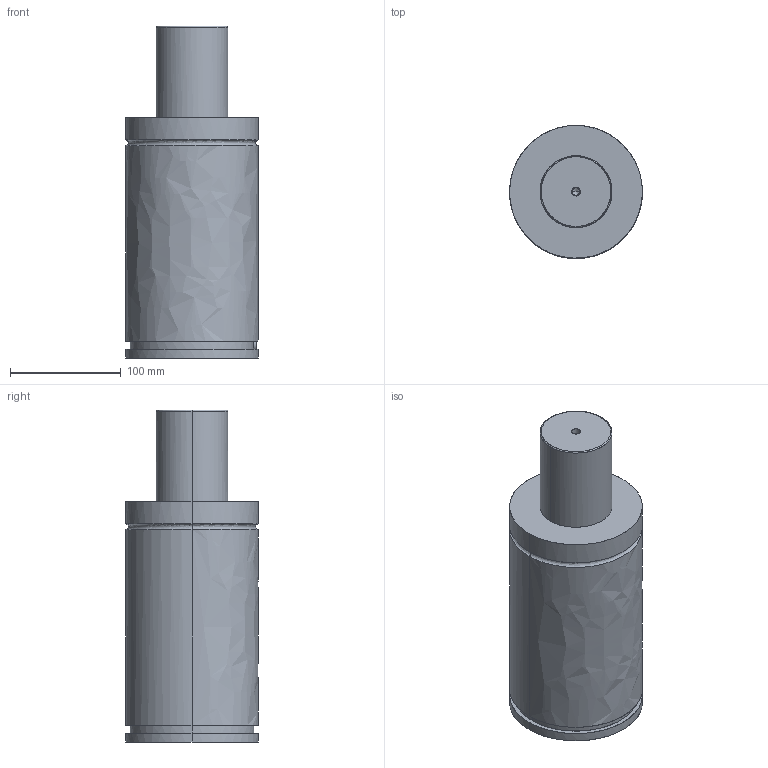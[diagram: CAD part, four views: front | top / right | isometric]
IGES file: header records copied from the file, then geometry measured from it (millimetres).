
Global section: file name: E:\UnigraphicsGraphicData\MISUMI_PRESS-PARTS\IGES\3d_gse120-80_03878_r00.igs; native system: NX V5.0; preprocessor: UGS NX IGES V5.0; author: MISUMI; date: 20110105.160752; units: millimetre
Bounding box: 120 x 120 x 300 mm (x, y, z)
Surface area: 128318.9 mm2 (no closed solid volume)
Topology: 0 solids, 0 shells, 75 faces, 604 edges, 602 vertices
Faces by surface type: bspline 75
